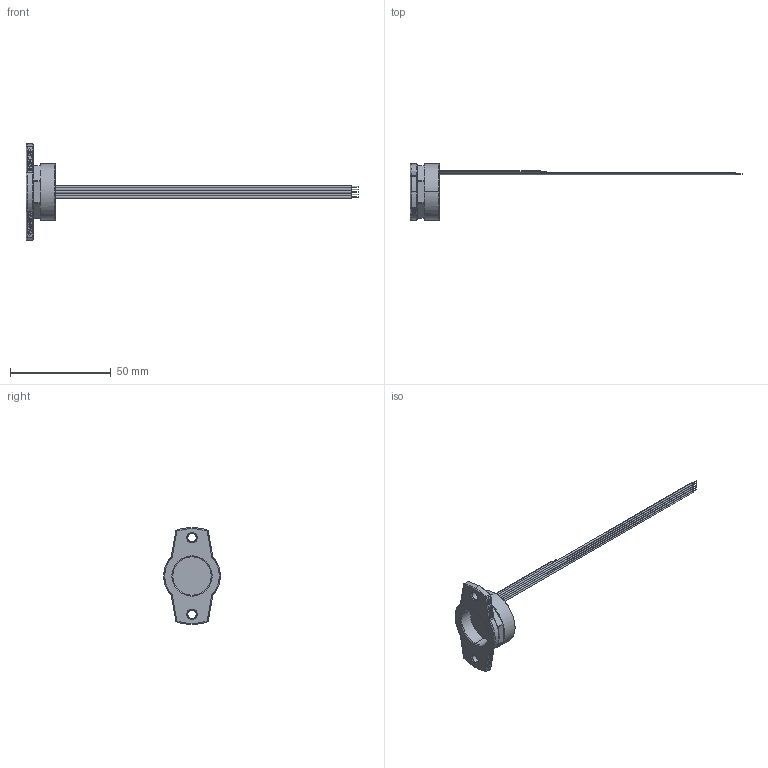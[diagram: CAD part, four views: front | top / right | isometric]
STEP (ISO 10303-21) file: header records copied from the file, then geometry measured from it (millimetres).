
FILE_DESCRIPTION (( 'STEP AP214' ), '1' );
FILE_NAME ('01_EN(x)28 K komplett montiert.STEP', '2011-08-29T08:39:44', ( 'mega' ), ( 'mega' ), 'SwSTEP 2.0', 'SolidWorks 2007', '' );
FILE_SCHEMA (( 'AUTOMOTIVE_DESIGN' ));
Length unit declared in the file: millimetre
Products named in the file (1): 01_EN(x)28 K komplett montiert
Bounding box: 164.5 x 28 x 48 mm (x, y, z)
Surface area: 7601.2 mm2 (no closed solid volume)
Topology: 0 solids, 7 shells, 276 faces, 941 edges, 652 vertices
Faces by surface type: plane 117, cylinder 62, bspline 55, torus 34, sphere 8
Entity records: 18039 total; most frequent: CARTESIAN_POINT 7481, ORIENTED_EDGE 1488, DIRECTION 1355, EDGE_CURVE 941, VERTEX_POINT 652, VECTOR 507, LINE 507, AXIS2_PLACEMENT_3D 424
